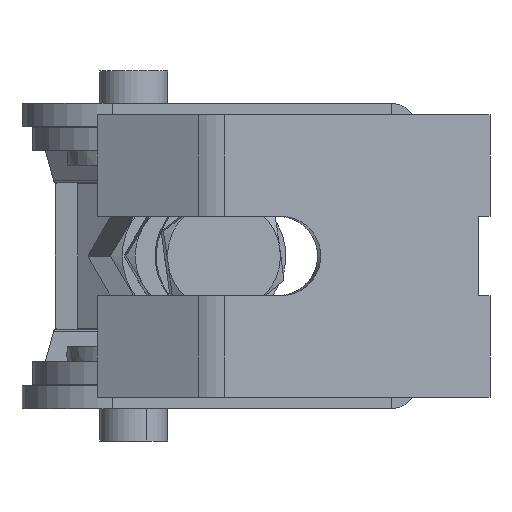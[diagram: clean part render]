
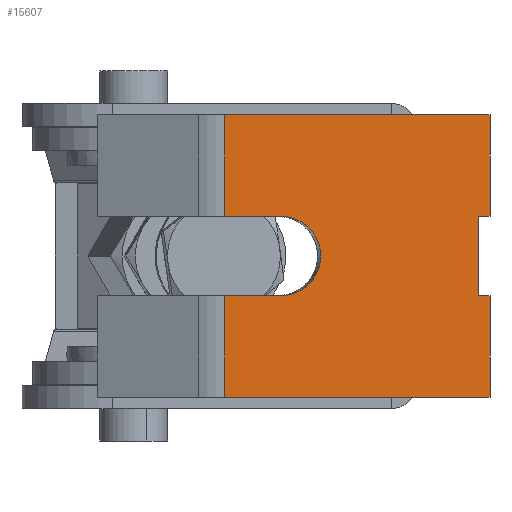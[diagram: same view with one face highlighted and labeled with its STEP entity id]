
A CAD part, left-side view. The second image highlights one B-rep face of the part: STEP entity #15607.
In plain terms, the highlighted planar face has unit normal (-0.998, -0.064, 0) as drawn and (0, -1, 0) by its records, which use the part's own axes.
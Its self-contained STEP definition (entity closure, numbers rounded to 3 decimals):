
#219 = CARTESIAN_POINT ( 'NONE',  ( -5.04, -4.5, -3.5 ) ) ;
#278 = VECTOR ( 'NONE', #7161, 1000. ) ;
#338 = VERTEX_POINT ( 'NONE', #8152 ) ;
#435 = VECTOR ( 'NONE', #7544, 1000. ) ;
#458 = CARTESIAN_POINT ( 'NONE',  ( -0.027, -4.5, 3.5 ) ) ;
#737 = EDGE_CURVE ( 'NONE', #14136, #16220, #7273, .T. ) ;
#817 = EDGE_CURVE ( 'NONE', #11131, #17682, #9297, .T. ) ;
#959 = EDGE_CURVE ( 'NONE', #16220, #7152, #7963, .T. ) ;
#990 = LINE ( 'NONE', #9309, #7747 ) ;
#1122 = LINE ( 'NONE', #9561, #5389 ) ;
#1791 = VECTOR ( 'NONE', #4742, 1000. ) ;
#1967 = CARTESIAN_POINT ( 'NONE',  ( -23.54, -4.5, 12.5 ) ) ;
#2139 = VERTEX_POINT ( 'NONE', #6466 ) ;
#2267 = EDGE_CURVE ( 'NONE', #2139, #338, #11527, .T. ) ;
#2599 = CARTESIAN_POINT ( 'NONE',  ( -0.027, -4.5, -3.5 ) ) ;
#3112 = CARTESIAN_POINT ( 'NONE',  ( -23.54, -4.5, 3.5 ) ) ;
#3406 = CARTESIAN_POINT ( 'NONE',  ( -5.04, -4.5, 3.5 ) ) ;
#3452 = ORIENTED_EDGE ( 'NONE', *, *, #10232, .T. ) ;
#3674 = EDGE_LOOP ( 'NONE', ( #16542, #5511, #5102, #5151, #4501, #8040, #17448, #15162, #18235, #7155, #3729, #3452 ) ) ;
#3729 = ORIENTED_EDGE ( 'NONE', *, *, #5875, .F. ) ;
#3915 = CARTESIAN_POINT ( 'NONE',  ( -22.54, -4.5, -3.5 ) ) ;
#4154 = LINE ( 'NONE', #5719, #278 ) ;
#4250 = LINE ( 'NONE', #18674, #11456 ) ;
#4365 = DIRECTION ( 'NONE',  ( 1., 0., 0. ) ) ;
#4501 = ORIENTED_EDGE ( 'NONE', *, *, #17144, .T. ) ;
#4589 = LINE ( 'NONE', #3915, #11803 ) ;
#4626 = CARTESIAN_POINT ( 'NONE',  ( -23.54, -4.5, 12.5 ) ) ;
#4742 = DIRECTION ( 'NONE',  ( 0., 0., -1. ) ) ;
#4865 = DIRECTION ( 'NONE',  ( 0., 1., 0. ) ) ;
#5102 = ORIENTED_EDGE ( 'NONE', *, *, #18217, .F. ) ;
#5151 = ORIENTED_EDGE ( 'NONE', *, *, #2267, .F. ) ;
#5170 = DIRECTION ( 'NONE',  ( 0., 0., 1. ) ) ;
#5341 = DIRECTION ( 'NONE',  ( 0., 0., -1. ) ) ;
#5389 = VECTOR ( 'NONE', #18172, 1000. ) ;
#5511 = ORIENTED_EDGE ( 'NONE', *, *, #959, .T. ) ;
#5719 = CARTESIAN_POINT ( 'NONE',  ( 9.999, -4.5, -3.5 ) ) ;
#5875 = EDGE_CURVE ( 'NONE', #12848, #17682, #1122, .T. ) ;
#5921 = VECTOR ( 'NONE', #11037, 1000. ) ;
#5996 = EDGE_CURVE ( 'NONE', #16847, #11131, #17978, .T. ) ;
#6393 = DIRECTION ( 'NONE',  ( 1., 0., 0. ) ) ;
#6404 = DIRECTION ( 'NONE',  ( 1., 0., 0. ) ) ;
#6466 = CARTESIAN_POINT ( 'NONE',  ( -23.54, -4.5, 12.5 ) ) ;
#7152 = VERTEX_POINT ( 'NONE', #458 ) ;
#7155 = ORIENTED_EDGE ( 'NONE', *, *, #817, .T. ) ;
#7161 = DIRECTION ( 'NONE',  ( -1., 0., 0. ) ) ;
#7221 = VECTOR ( 'NONE', #4365, 1000. ) ;
#7273 = CIRCLE ( 'NONE', #17085, 3.5 ) ;
#7544 = DIRECTION ( 'NONE',  ( -1., 0., 0. ) ) ;
#7747 = VECTOR ( 'NONE', #6404, 1000. ) ;
#7884 = CARTESIAN_POINT ( 'NONE',  ( -22.54, -4.5, 3.5 ) ) ;
#7963 = LINE ( 'NONE', #13612, #14280 ) ;
#8040 = ORIENTED_EDGE ( 'NONE', *, *, #9964, .T. ) ;
#8152 = CARTESIAN_POINT ( 'NONE',  ( -0.027, -4.5, 12.5 ) ) ;
#8412 = CARTESIAN_POINT ( 'NONE',  ( -23.54, -4.5, 12.5 ) ) ;
#8999 = LINE ( 'NONE', #11842, #435 ) ;
#9297 = LINE ( 'NONE', #10971, #5921 ) ;
#9309 = CARTESIAN_POINT ( 'NONE',  ( -23.54, -4.5, 3.5 ) ) ;
#9454 = LINE ( 'NONE', #17614, #1791 ) ;
#9561 = CARTESIAN_POINT ( 'NONE',  ( -0.027, -4.5, 12.5 ) ) ;
#9859 = VERTEX_POINT ( 'NONE', #3112 ) ;
#9948 = CARTESIAN_POINT ( 'NONE',  ( -22.54, -4.5, -3.5 ) ) ;
#9960 = VERTEX_POINT ( 'NONE', #7884 ) ;
#9964 = EDGE_CURVE ( 'NONE', #9859, #9960, #990, .T. ) ;
#10050 = DIRECTION ( 'NONE',  ( 0., 0., -1. ) ) ;
#10232 = EDGE_CURVE ( 'NONE', #12848, #14136, #4154, .T. ) ;
#10971 = CARTESIAN_POINT ( 'NONE',  ( -23.54, -4.5, -12.5 ) ) ;
#11037 = DIRECTION ( 'NONE',  ( 1., 0., 0. ) ) ;
#11131 = VERTEX_POINT ( 'NONE', #14482 ) ;
#11456 = VECTOR ( 'NONE', #10050, 1000. ) ;
#11527 = LINE ( 'NONE', #4626, #7221 ) ;
#11803 = VECTOR ( 'NONE', #5341, 1000. ) ;
#11842 = CARTESIAN_POINT ( 'NONE',  ( -23.54, -4.5, -3.5 ) ) ;
#11877 = AXIS2_PLACEMENT_3D ( 'NONE', #1967, #4865, #14937 ) ;
#12439 = FACE_OUTER_BOUND ( 'NONE', #3674, .T. ) ;
#12848 = VERTEX_POINT ( 'NONE', #2599 ) ;
#13612 = CARTESIAN_POINT ( 'NONE',  ( -5.04, -4.5, 3.5 ) ) ;
#13970 = EDGE_CURVE ( 'NONE', #9960, #17583, #4589, .T. ) ;
#14136 = VERTEX_POINT ( 'NONE', #219 ) ;
#14189 = VECTOR ( 'NONE', #18479, 1000. ) ;
#14280 = VECTOR ( 'NONE', #6393, 1000. ) ;
#14482 = CARTESIAN_POINT ( 'NONE',  ( -23.54, -4.5, -12.5 ) ) ;
#14638 = DIRECTION ( 'NONE',  ( 0., 1., 0. ) ) ;
#14747 = CARTESIAN_POINT ( 'NONE',  ( -5.04, -4.5, 0. ) ) ;
#14937 = DIRECTION ( 'NONE',  ( 0., 0., 1. ) ) ;
#15162 = ORIENTED_EDGE ( 'NONE', *, *, #16142, .T. ) ;
#15607 = ADVANCED_FACE ( 'NONE', ( #12439 ), #17747, .F. ) ;
#16142 = EDGE_CURVE ( 'NONE', #17583, #16847, #8999, .T. ) ;
#16220 = VERTEX_POINT ( 'NONE', #3406 ) ;
#16542 = ORIENTED_EDGE ( 'NONE', *, *, #737, .T. ) ;
#16847 = VERTEX_POINT ( 'NONE', #18351 ) ;
#17085 = AXIS2_PLACEMENT_3D ( 'NONE', #14747, #14638, #5170 ) ;
#17144 = EDGE_CURVE ( 'NONE', #2139, #9859, #9454, .T. ) ;
#17287 = CARTESIAN_POINT ( 'NONE',  ( -0.027, -4.5, -12.5 ) ) ;
#17448 = ORIENTED_EDGE ( 'NONE', *, *, #13970, .T. ) ;
#17583 = VERTEX_POINT ( 'NONE', #9948 ) ;
#17614 = CARTESIAN_POINT ( 'NONE',  ( -23.54, -4.5, 12.5 ) ) ;
#17682 = VERTEX_POINT ( 'NONE', #17287 ) ;
#17747 = PLANE ( 'NONE',  #11877 ) ;
#17978 = LINE ( 'NONE', #8412, #14189 ) ;
#18172 = DIRECTION ( 'NONE',  ( 0., 0., -1. ) ) ;
#18217 = EDGE_CURVE ( 'NONE', #338, #7152, #4250, .T. ) ;
#18235 = ORIENTED_EDGE ( 'NONE', *, *, #5996, .T. ) ;
#18351 = CARTESIAN_POINT ( 'NONE',  ( -23.54, -4.5, -3.5 ) ) ;
#18479 = DIRECTION ( 'NONE',  ( 0., 0., -1. ) ) ;
#18674 = CARTESIAN_POINT ( 'NONE',  ( -0.027, -4.5, 12.5 ) ) ;
